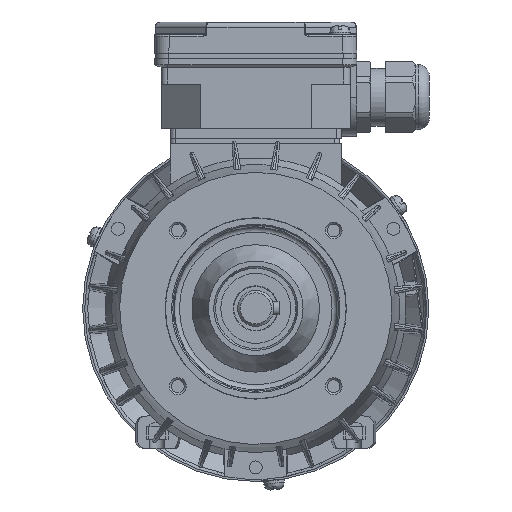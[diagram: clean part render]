
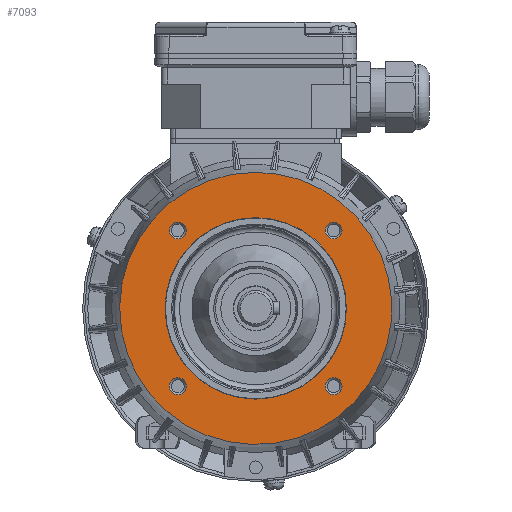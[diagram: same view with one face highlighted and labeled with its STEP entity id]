
A CAD part, front view. The second image highlights one B-rep face of the part: STEP entity #7093.
In plain terms, the highlighted planar face has unit normal (0, -1, 0) as drawn and (-1, 0, 0) by its records, which use the part's own axes.
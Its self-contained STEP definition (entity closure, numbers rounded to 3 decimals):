
#7093 = ADVANCED_FACE( '', ( #14423, #14424, #14425, #14426, #14427, #14428 ), #14429, .F. );
#14423 = FACE_BOUND( '', #55760, .T. );
#14424 = FACE_BOUND( '', #55761, .T. );
#14425 = FACE_BOUND( '', #55762, .T. );
#14426 = FACE_BOUND( '', #55763, .T. );
#14427 = FACE_BOUND( '', #55764, .T. );
#14428 = FACE_OUTER_BOUND( '', #55765, .T. );
#14429 = PLANE( '', #55766 );
#55760 = EDGE_LOOP( '', ( #80718 ) );
#55761 = EDGE_LOOP( '', ( #80719 ) );
#55762 = EDGE_LOOP( '', ( #80720 ) );
#55763 = EDGE_LOOP( '', ( #80721 ) );
#55764 = EDGE_LOOP( '', ( #80722 ) );
#55765 = EDGE_LOOP( '', ( #80723 ) );
#55766 = AXIS2_PLACEMENT_3D( '', #80724, #80725, #80726 );
#80718 = ORIENTED_EDGE( '', *, *, #91539, .T. );
#80719 = ORIENTED_EDGE( '', *, *, #91000, .T. );
#80720 = ORIENTED_EDGE( '', *, *, #91540, .T. );
#80721 = ORIENTED_EDGE( '', *, *, #91541, .T. );
#80722 = ORIENTED_EDGE( '', *, *, #91542, .F. );
#80723 = ORIENTED_EDGE( '', *, *, #84012, .T. );
#80724 = CARTESIAN_POINT( '', ( 2.5, 0., 52.5 ) );
#80725 = DIRECTION( '', ( 1., 0., 0. ) );
#80726 = DIRECTION( '', ( 0., 0., -1. ) );
#84012 = EDGE_CURVE( '', #93039, #93039, #93040, .T. );
#91000 = EDGE_CURVE( '', #103476, #103476, #103477, .T. );
#91539 = EDGE_CURVE( '', #104072, #104072, #104073, .T. );
#91540 = EDGE_CURVE( '', #104074, #104074, #104075, .T. );
#91541 = EDGE_CURVE( '', #104076, #104076, #104077, .T. );
#91542 = EDGE_CURVE( '', #104078, #104078, #104079, .T. );
#93039 = VERTEX_POINT( '', #109300 );
#93040 = CIRCLE( '', #109301, 52.5 );
#103476 = VERTEX_POINT( '', #147816 );
#103477 = CIRCLE( '', #147817, 3.259 );
#104072 = VERTEX_POINT( '', #149643 );
#104073 = CIRCLE( '', #149644, 3.259 );
#104074 = VERTEX_POINT( '', #149645 );
#104075 = CIRCLE( '', #149646, 3.259 );
#104076 = VERTEX_POINT( '', #149647 );
#104077 = CIRCLE( '', #149648, 3.259 );
#104078 = VERTEX_POINT( '', #149649 );
#104079 = CIRCLE( '', #149650, 35. );
#109300 = CARTESIAN_POINT( '', ( 2.5, 0., 52.5 ) );
#109301 = AXIS2_PLACEMENT_3D( '', #151246, #151247, #151248 );
#147816 = CARTESIAN_POINT( '', ( 2.5, 26.794, -30.052 ) );
#147817 = AXIS2_PLACEMENT_3D( '', #158883, #158884, #158885 );
#149643 = CARTESIAN_POINT( '', ( 2.5, 26.794, 30.052 ) );
#149644 = AXIS2_PLACEMENT_3D( '', #159259, #159260, #159261 );
#149645 = CARTESIAN_POINT( '', ( 2.5, -33.311, -30.052 ) );
#149646 = AXIS2_PLACEMENT_3D( '', #159262, #159263, #159264 );
#149647 = CARTESIAN_POINT( '', ( 2.5, -33.311, 30.052 ) );
#149648 = AXIS2_PLACEMENT_3D( '', #159265, #159266, #159267 );
#149649 = CARTESIAN_POINT( '', ( 2.5, 0., 35. ) );
#149650 = AXIS2_PLACEMENT_3D( '', #159268, #159269, #159270 );
#151246 = CARTESIAN_POINT( '', ( 2.5, 0., 0. ) );
#151247 = DIRECTION( '', ( -1., 0., 0. ) );
#151248 = DIRECTION( '', ( 0., 0., 1. ) );
#158883 = CARTESIAN_POINT( '', ( 2.5, 30.052, -30.052 ) );
#158884 = DIRECTION( '', ( 1., 0., 0. ) );
#158885 = DIRECTION( '', ( 0., -1., 0. ) );
#159259 = CARTESIAN_POINT( '', ( 2.5, 30.052, 30.052 ) );
#159260 = DIRECTION( '', ( 1., 0., 0. ) );
#159261 = DIRECTION( '', ( 0., -1., 0. ) );
#159262 = CARTESIAN_POINT( '', ( 2.5, -30.052, -30.052 ) );
#159263 = DIRECTION( '', ( 1., 0., 0. ) );
#159264 = DIRECTION( '', ( 0., -1., 0. ) );
#159265 = CARTESIAN_POINT( '', ( 2.5, -30.052, 30.052 ) );
#159266 = DIRECTION( '', ( 1., 0., 0. ) );
#159267 = DIRECTION( '', ( 0., -1., 0. ) );
#159268 = CARTESIAN_POINT( '', ( 2.5, 0., 0. ) );
#159269 = DIRECTION( '', ( -1., 0., 0. ) );
#159270 = DIRECTION( '', ( 0., 0., 1. ) );
